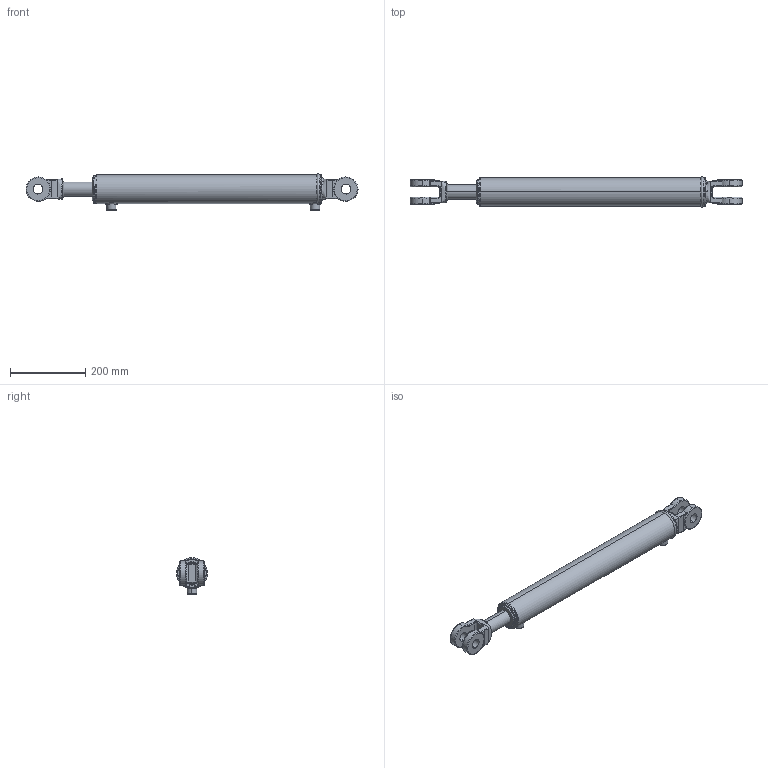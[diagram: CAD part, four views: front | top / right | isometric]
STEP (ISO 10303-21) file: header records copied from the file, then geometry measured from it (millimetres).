
FILE_DESCRIPTION (( 'STEP AP203' ), '1' );
FILE_NAME ('CL-CL250150x508 (20).STEP', '2014-11-21T02:35:50', ( '' ), ( '' ), 'SwSTEP 2.0', 'SolidWorks 2014', '' );
FILE_SCHEMA (( 'CONFIG_CONTROL_DESIGN' ));
Length unit declared in the file: millimetre
Products named in the file (5): CL-CL250150x508 (20) body; 2.5 inch ext circlip; CL-CL250150x508 (20) BODY; SPARE 6_20-xx; CL-CL250150x508 (20)
Assembly tree (4 placements, depth 3):
  CL-CL250150x508 (20)
    CL-CL250150x508 (20) BODY
      CL-CL250150x508 (20) body
      2.5 inch ext circlip
    SPARE 6_20-xx
Bounding box: 882.39 x 82.18 x 97.2 mm (x, y, z)
Volume: 3680937.9 mm3; surface area: 313253.2 mm2
Topology: 3 solids, 3 shells, 210 faces, 512 edges, 315 vertices
Faces by surface type: cylinder 91, bspline 59, plane 37, torus 15, cone 8
Entity records: 11387 total; most frequent: CARTESIAN_POINT 6222, ORIENTED_EDGE 1016, DIRECTION 943, EDGE_CURVE 508, AXIS2_PLACEMENT_3D 394, VERTEX_POINT 315, CIRCLE 235, EDGE_LOOP 233
